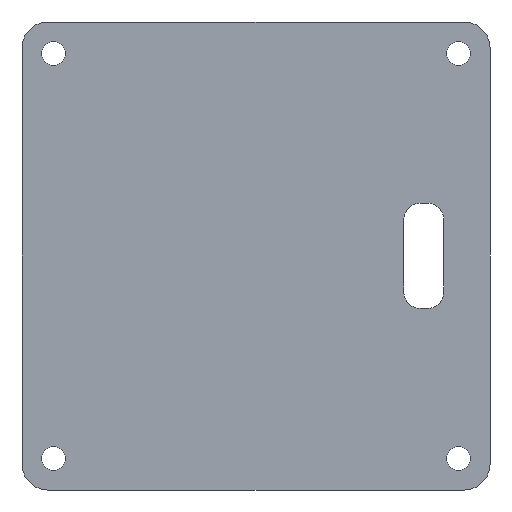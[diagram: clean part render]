
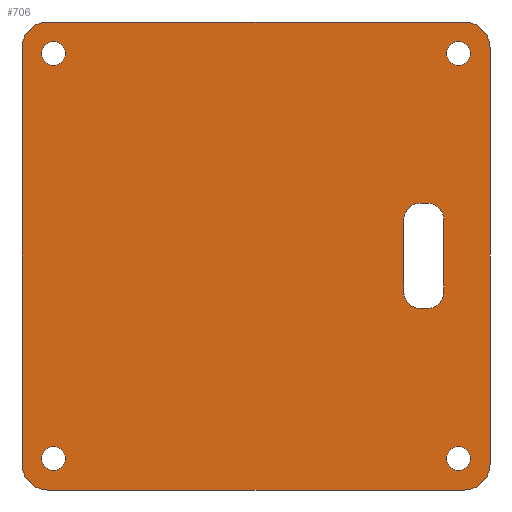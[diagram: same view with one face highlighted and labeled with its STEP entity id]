
A CAD part, front view. The second image highlights one B-rep face of the part: STEP entity #706.
In plain terms, the highlighted planar face has unit normal (0, -1, 0).
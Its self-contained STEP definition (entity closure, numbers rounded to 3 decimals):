
#113=DIRECTION('',(1.,0.,0.));
#114=VECTOR('',#113,37.);
#115=CARTESIAN_POINT('',(-18.5,18.5,-20.8));
#116=LINE('',#115,#114);
#121=CARTESIAN_POINT('',(-18.,18.5,18.));
#122=DIRECTION('',(0.,1.,0.));
#123=DIRECTION('',(0.,0.,-1.));
#124=AXIS2_PLACEMENT_3D('',#121,#122,#123);
#126=CARTESIAN_POINT('',(-18.,18.5,18.));
#127=DIRECTION('',(0.,1.,0.));
#128=DIRECTION('',(0.,0.,1.));
#129=AXIS2_PLACEMENT_3D('',#126,#127,#128);
#131=CARTESIAN_POINT('',(-18.,18.5,-18.));
#132=DIRECTION('',(0.,1.,0.));
#133=DIRECTION('',(0.,0.,-1.));
#134=AXIS2_PLACEMENT_3D('',#131,#132,#133);
#136=CARTESIAN_POINT('',(-18.,18.5,-18.));
#137=DIRECTION('',(0.,1.,0.));
#138=DIRECTION('',(0.,0.,1.));
#139=AXIS2_PLACEMENT_3D('',#136,#137,#138);
#141=CARTESIAN_POINT('',(18.,18.5,18.));
#142=DIRECTION('',(0.,1.,0.));
#143=DIRECTION('',(0.,0.,-1.));
#144=AXIS2_PLACEMENT_3D('',#141,#142,#143);
#146=CARTESIAN_POINT('',(18.,18.5,18.));
#147=DIRECTION('',(0.,1.,0.));
#148=DIRECTION('',(0.,0.,1.));
#149=AXIS2_PLACEMENT_3D('',#146,#147,#148);
#151=CARTESIAN_POINT('',(18.,18.5,-18.));
#152=DIRECTION('',(0.,1.,0.));
#153=DIRECTION('',(0.,0.,-1.));
#154=AXIS2_PLACEMENT_3D('',#151,#152,#153);
#156=CARTESIAN_POINT('',(18.,18.5,-18.));
#157=DIRECTION('',(0.,1.,0.));
#158=DIRECTION('',(0.,0.,1.));
#159=AXIS2_PLACEMENT_3D('',#156,#157,#158);
#161=DIRECTION('',(0.,0.,1.));
#162=VECTOR('',#161,6.44);
#163=CARTESIAN_POINT('',(13.14,18.5,-3.203));
#164=LINE('',#163,#162);
#165=CARTESIAN_POINT('',(14.59,18.5,-3.203));
#166=DIRECTION('',(0.,1.,0.));
#167=DIRECTION('',(0.,0.,-1.));
#168=AXIS2_PLACEMENT_3D('',#165,#166,#167);
#170=DIRECTION('',(-1.,0.,0.));
#171=VECTOR('',#170,0.66);
#172=CARTESIAN_POINT('',(15.25,18.5,-4.653));
#173=LINE('',#172,#171);
#174=CARTESIAN_POINT('',(15.25,18.5,-3.203));
#175=DIRECTION('',(0.,1.,0.));
#176=DIRECTION('',(1.,0.,0.));
#177=AXIS2_PLACEMENT_3D('',#174,#175,#176);
#179=DIRECTION('',(0.,0.,-1.));
#180=VECTOR('',#179,6.44);
#181=CARTESIAN_POINT('',(16.7,18.5,3.237));
#182=LINE('',#181,#180);
#183=CARTESIAN_POINT('',(15.25,18.5,3.237));
#184=DIRECTION('',(0.,1.,0.));
#185=DIRECTION('',(0.,0.,1.));
#186=AXIS2_PLACEMENT_3D('',#183,#184,#185);
#188=DIRECTION('',(1.,0.,0.));
#189=VECTOR('',#188,0.66);
#190=CARTESIAN_POINT('',(14.59,18.5,4.687));
#191=LINE('',#190,#189);
#192=CARTESIAN_POINT('',(14.59,18.5,3.237));
#193=DIRECTION('',(0.,1.,0.));
#194=DIRECTION('',(-1.,0.,0.));
#195=AXIS2_PLACEMENT_3D('',#192,#193,#194);
#197=CARTESIAN_POINT('',(-18.5,18.5,-18.5));
#198=DIRECTION('',(0.,1.,0.));
#199=DIRECTION('',(0.,0.,-1.));
#200=AXIS2_PLACEMENT_3D('',#197,#198,#199);
#206=DIRECTION('',(0.,0.,-1.));
#207=VECTOR('',#206,37.);
#208=CARTESIAN_POINT('',(-20.8,18.5,18.5));
#209=LINE('',#208,#207);
#214=CARTESIAN_POINT('',(-18.5,18.5,18.5));
#215=DIRECTION('',(0.,1.,0.));
#216=DIRECTION('',(-1.,0.,0.));
#217=AXIS2_PLACEMENT_3D('',#214,#215,#216);
#223=DIRECTION('',(-1.,0.,0.));
#224=VECTOR('',#223,37.);
#225=CARTESIAN_POINT('',(18.5,18.5,20.8));
#226=LINE('',#225,#224);
#231=CARTESIAN_POINT('',(18.5,18.5,18.5));
#232=DIRECTION('',(0.,1.,0.));
#233=DIRECTION('',(0.,0.,1.));
#234=AXIS2_PLACEMENT_3D('',#231,#232,#233);
#240=DIRECTION('',(0.,0.,1.));
#241=VECTOR('',#240,37.);
#242=CARTESIAN_POINT('',(20.8,18.5,-18.5));
#243=LINE('',#242,#241);
#248=CARTESIAN_POINT('',(18.5,18.5,-18.5));
#249=DIRECTION('',(0.,1.,0.));
#250=DIRECTION('',(1.,0.,0.));
#251=AXIS2_PLACEMENT_3D('',#248,#249,#250);
#449=CARTESIAN_POINT('',(-18.5,18.5,-20.8));
#450=CARTESIAN_POINT('',(18.5,18.5,-20.8));
#451=VERTEX_POINT('',#449);
#452=VERTEX_POINT('',#450);
#453=CARTESIAN_POINT('',(20.8,18.5,-18.5));
#454=VERTEX_POINT('',#453);
#455=CARTESIAN_POINT('',(20.8,18.5,18.5));
#456=VERTEX_POINT('',#455);
#457=CARTESIAN_POINT('',(18.5,18.5,20.8));
#458=VERTEX_POINT('',#457);
#459=CARTESIAN_POINT('',(-18.5,18.5,20.8));
#460=VERTEX_POINT('',#459);
#461=CARTESIAN_POINT('',(-20.8,18.5,18.5));
#462=VERTEX_POINT('',#461);
#463=CARTESIAN_POINT('',(-20.8,18.5,-18.5));
#464=VERTEX_POINT('',#463);
#497=CARTESIAN_POINT('',(-18.,18.5,16.95));
#498=CARTESIAN_POINT('',(-18.,18.5,19.05));
#499=VERTEX_POINT('',#497);
#500=VERTEX_POINT('',#498);
#501=CARTESIAN_POINT('',(-18.,18.5,-19.05));
#502=CARTESIAN_POINT('',(-18.,18.5,-16.95));
#503=VERTEX_POINT('',#501);
#504=VERTEX_POINT('',#502);
#505=CARTESIAN_POINT('',(18.,18.5,16.95));
#506=CARTESIAN_POINT('',(18.,18.5,19.05));
#507=VERTEX_POINT('',#505);
#508=VERTEX_POINT('',#506);
#509=CARTESIAN_POINT('',(18.,18.5,-19.05));
#510=CARTESIAN_POINT('',(18.,18.5,-16.95));
#511=VERTEX_POINT('',#509);
#512=VERTEX_POINT('',#510);
#545=CARTESIAN_POINT('',(13.14,18.5,-3.203));
#546=CARTESIAN_POINT('',(13.14,18.5,3.237));
#547=VERTEX_POINT('',#545);
#548=VERTEX_POINT('',#546);
#549=CARTESIAN_POINT('',(14.59,18.5,4.687));
#550=VERTEX_POINT('',#549);
#551=CARTESIAN_POINT('',(15.25,18.5,4.687));
#552=VERTEX_POINT('',#551);
#553=CARTESIAN_POINT('',(16.7,18.5,3.237));
#554=VERTEX_POINT('',#553);
#555=CARTESIAN_POINT('',(16.7,18.5,-3.203));
#556=VERTEX_POINT('',#555);
#557=CARTESIAN_POINT('',(15.25,18.5,-4.653));
#558=VERTEX_POINT('',#557);
#559=CARTESIAN_POINT('',(14.59,18.5,-4.653));
#560=VERTEX_POINT('',#559);
#642=CARTESIAN_POINT('',(0.,18.5,0.));
#643=DIRECTION('',(0.,-1.,0.));
#644=DIRECTION('',(-1.,0.,0.));
#645=AXIS2_PLACEMENT_3D('',#642,#643,#644);
#646=PLANE('',#645);
#647=ORIENTED_EDGE('',*,*,#632,.F.);
#649=ORIENTED_EDGE('',*,*,#648,.T.);
#651=ORIENTED_EDGE('',*,*,#650,.F.);
#653=ORIENTED_EDGE('',*,*,#652,.T.);
#655=ORIENTED_EDGE('',*,*,#654,.F.);
#657=ORIENTED_EDGE('',*,*,#656,.T.);
#659=ORIENTED_EDGE('',*,*,#658,.F.);
#661=ORIENTED_EDGE('',*,*,#660,.T.);
#662=EDGE_LOOP('',(#647,#649,#651,#653,#655,#657,#659,#661));
#663=FACE_OUTER_BOUND('',#662,.F.);
#665=ORIENTED_EDGE('',*,*,#664,.F.);
#667=ORIENTED_EDGE('',*,*,#666,.F.);
#668=EDGE_LOOP('',(#665,#667));
#669=FACE_BOUND('',#668,.F.);
#671=ORIENTED_EDGE('',*,*,#670,.F.);
#673=ORIENTED_EDGE('',*,*,#672,.F.);
#674=EDGE_LOOP('',(#671,#673));
#675=FACE_BOUND('',#674,.F.);
#677=ORIENTED_EDGE('',*,*,#676,.F.);
#679=ORIENTED_EDGE('',*,*,#678,.F.);
#680=EDGE_LOOP('',(#677,#679));
#681=FACE_BOUND('',#680,.F.);
#683=ORIENTED_EDGE('',*,*,#682,.F.);
#685=ORIENTED_EDGE('',*,*,#684,.F.);
#686=EDGE_LOOP('',(#683,#685));
#687=FACE_BOUND('',#686,.F.);
#689=ORIENTED_EDGE('',*,*,#688,.F.);
#691=ORIENTED_EDGE('',*,*,#690,.F.);
#693=ORIENTED_EDGE('',*,*,#692,.F.);
#695=ORIENTED_EDGE('',*,*,#694,.F.);
#697=ORIENTED_EDGE('',*,*,#696,.F.);
#699=ORIENTED_EDGE('',*,*,#698,.F.);
#701=ORIENTED_EDGE('',*,*,#700,.F.);
#703=ORIENTED_EDGE('',*,*,#702,.F.);
#704=EDGE_LOOP('',(#689,#691,#693,#695,#697,#699,#701,#703));
#705=FACE_BOUND('',#704,.F.);
#706=ADVANCED_FACE('',(#663,#669,#675,#681,#687,#705),#646,.T.);
#125=CIRCLE('',#124,1.05);
#130=CIRCLE('',#129,1.05);
#135=CIRCLE('',#134,1.05);
#140=CIRCLE('',#139,1.05);
#145=CIRCLE('',#144,1.05);
#150=CIRCLE('',#149,1.05);
#155=CIRCLE('',#154,1.05);
#160=CIRCLE('',#159,1.05);
#169=CIRCLE('',#168,1.45);
#178=CIRCLE('',#177,1.45);
#187=CIRCLE('',#186,1.45);
#196=CIRCLE('',#195,1.45);
#201=CIRCLE('',#200,2.3);
#218=CIRCLE('',#217,2.3);
#235=CIRCLE('',#234,2.3);
#252=CIRCLE('',#251,2.3);
#632=EDGE_CURVE('',#451,#452,#116,.T.);
#648=EDGE_CURVE('',#451,#464,#201,.T.);
#650=EDGE_CURVE('',#462,#464,#209,.T.);
#652=EDGE_CURVE('',#462,#460,#218,.T.);
#654=EDGE_CURVE('',#458,#460,#226,.T.);
#656=EDGE_CURVE('',#458,#456,#235,.T.);
#658=EDGE_CURVE('',#454,#456,#243,.T.);
#660=EDGE_CURVE('',#454,#452,#252,.T.);
#664=EDGE_CURVE('',#499,#500,#125,.T.);
#666=EDGE_CURVE('',#500,#499,#130,.T.);
#670=EDGE_CURVE('',#503,#504,#135,.T.);
#672=EDGE_CURVE('',#504,#503,#140,.T.);
#676=EDGE_CURVE('',#507,#508,#145,.T.);
#678=EDGE_CURVE('',#508,#507,#150,.T.);
#682=EDGE_CURVE('',#511,#512,#155,.T.);
#684=EDGE_CURVE('',#512,#511,#160,.T.);
#688=EDGE_CURVE('',#547,#548,#164,.T.);
#690=EDGE_CURVE('',#560,#547,#169,.T.);
#692=EDGE_CURVE('',#558,#560,#173,.T.);
#694=EDGE_CURVE('',#556,#558,#178,.T.);
#696=EDGE_CURVE('',#554,#556,#182,.T.);
#698=EDGE_CURVE('',#552,#554,#187,.T.);
#700=EDGE_CURVE('',#550,#552,#191,.T.);
#702=EDGE_CURVE('',#548,#550,#196,.T.);
